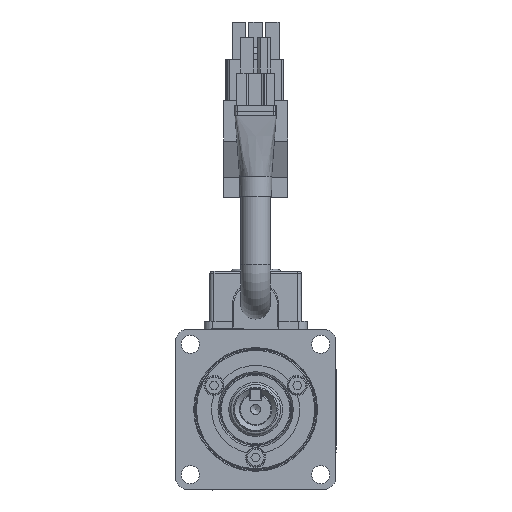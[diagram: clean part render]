
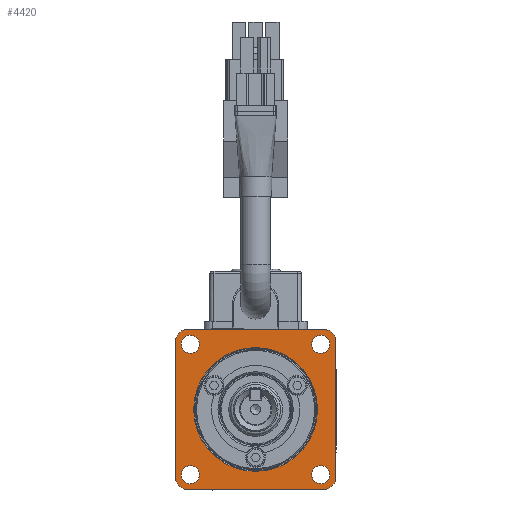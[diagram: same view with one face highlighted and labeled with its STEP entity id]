
A CAD part, left-side view. The second image highlights one B-rep face of the part: STEP entity #4420.
In plain terms, the highlighted planar face has unit normal (-1, 0, 0) as drawn and (0, -1, 0) by its records, which use the part's own axes.
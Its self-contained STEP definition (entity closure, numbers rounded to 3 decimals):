
#4420 = ADVANCED_FACE( '', ( #9267, #9268, #9269, #9270, #9271, #9272 ), #9273, .T. );
#9267 = FACE_BOUND( '', #17634, .T. );
#9268 = FACE_OUTER_BOUND( '', #17635, .T. );
#9269 = FACE_BOUND( '', #17636, .T. );
#9270 = FACE_BOUND( '', #17637, .T. );
#9271 = FACE_BOUND( '', #17638, .T. );
#9272 = FACE_BOUND( '', #17639, .T. );
#9273 = PLANE( '', #17640 );
#17634 = EDGE_LOOP( '', ( #30165 ) );
#17635 = EDGE_LOOP( '', ( #30166, #30167, #30168, #30169, #30170, #30171, #30172, #30173 ) );
#17636 = EDGE_LOOP( '', ( #30174 ) );
#17637 = EDGE_LOOP( '', ( #30175 ) );
#17638 = EDGE_LOOP( '', ( #30176 ) );
#17639 = EDGE_LOOP( '', ( #30177 ) );
#17640 = AXIS2_PLACEMENT_3D( '', #30178, #30179, #30180 );
#30165 = ORIENTED_EDGE( '', *, *, #41831, .T. );
#30166 = ORIENTED_EDGE( '', *, *, #41832, .F. );
#30167 = ORIENTED_EDGE( '', *, *, #41833, .T. );
#30168 = ORIENTED_EDGE( '', *, *, #38055, .F. );
#30169 = ORIENTED_EDGE( '', *, *, #38183, .T. );
#30170 = ORIENTED_EDGE( '', *, *, #40841, .F. );
#30171 = ORIENTED_EDGE( '', *, *, #41834, .F. );
#30172 = ORIENTED_EDGE( '', *, *, #41835, .F. );
#30173 = ORIENTED_EDGE( '', *, *, #41836, .T. );
#30174 = ORIENTED_EDGE( '', *, *, #41837, .F. );
#30175 = ORIENTED_EDGE( '', *, *, #39412, .F. );
#30176 = ORIENTED_EDGE( '', *, *, #41838, .F. );
#30177 = ORIENTED_EDGE( '', *, *, #41839, .F. );
#30178 = CARTESIAN_POINT( '', ( 0., 0.5, 15.5 ) );
#30179 = DIRECTION( '', ( 0., -1., 0. ) );
#30180 = DIRECTION( '', ( 0., 0., -1. ) );
#38055 = EDGE_CURVE( '', #44941, #44944, #44945, .F. );
#38183 = EDGE_CURVE( '', #44941, #45172, #45174, .T. );
#39412 = EDGE_CURVE( '', #47296, #47296, #47297, .F. );
#40841 = EDGE_CURVE( '', #49541, #45172, #49544, .F. );
#41831 = EDGE_CURVE( '', #50943, #50943, #50944, .F. );
#41832 = EDGE_CURVE( '', #50945, #50946, #50947, .F. );
#41833 = EDGE_CURVE( '', #50945, #44944, #50948, .T. );
#41834 = EDGE_CURVE( '', #50949, #49541, #50950, .T. );
#41835 = EDGE_CURVE( '', #50951, #50949, #50952, .F. );
#41836 = EDGE_CURVE( '', #50951, #50946, #50953, .T. );
#41837 = EDGE_CURVE( '', #50954, #50954, #50955, .F. );
#41838 = EDGE_CURVE( '', #50956, #50956, #50957, .F. );
#41839 = EDGE_CURVE( '', #50958, #50958, #50959, .F. );
#44941 = VERTEX_POINT( '', #53904 );
#44944 = VERTEX_POINT( '', #53908 );
#44945 = CIRCLE( '', #53909, 3. );
#45172 = VERTEX_POINT( '', #54273 );
#45174 = LINE( '', #54276, #54277 );
#47296 = VERTEX_POINT( '', #57746 );
#47297 = CIRCLE( '', #57747, 2.25 );
#49541 = VERTEX_POINT( '', #61886 );
#49544 = CIRCLE( '', #61890, 3. );
#50943 = VERTEX_POINT( '', #64545 );
#50944 = CIRCLE( '', #64546, 15.45 );
#50945 = VERTEX_POINT( '', #64547 );
#50946 = VERTEX_POINT( '', #64548 );
#50947 = CIRCLE( '', #64549, 3. );
#50948 = LINE( '', #64550, #64551 );
#50949 = VERTEX_POINT( '', #64552 );
#50950 = LINE( '', #64553, #64554 );
#50951 = VERTEX_POINT( '', #64555 );
#50952 = CIRCLE( '', #64556, 3. );
#50953 = LINE( '', #64557, #64558 );
#50954 = VERTEX_POINT( '', #64559 );
#50955 = CIRCLE( '', #64560, 2.25 );
#50956 = VERTEX_POINT( '', #64561 );
#50957 = CIRCLE( '', #64562, 2.25 );
#50958 = VERTEX_POINT( '', #64563 );
#50959 = CIRCLE( '', #64564, 2.25 );
#53904 = CARTESIAN_POINT( '', ( -20., 0.5, 17. ) );
#53908 = CARTESIAN_POINT( '', ( -17., 0.5, 20. ) );
#53909 = AXIS2_PLACEMENT_3D( '', #68716, #68717, #68718 );
#54273 = CARTESIAN_POINT( '', ( -20., 0.5, -17. ) );
#54276 = CARTESIAN_POINT( '', ( -20., 0.5, 20. ) );
#54277 = VECTOR( '', #68862, 1000. );
#57746 = CARTESIAN_POINT( '', ( 16.263, 0.5, -14.013 ) );
#57747 = AXIS2_PLACEMENT_3D( '', #70247, #70248, #70249 );
#61886 = CARTESIAN_POINT( '', ( -17., 0.5, -20. ) );
#61890 = AXIS2_PLACEMENT_3D( '', #71782, #71783, #71784 );
#64545 = CARTESIAN_POINT( '', ( 0., 0.5, -15.45 ) );
#64546 = AXIS2_PLACEMENT_3D( '', #72779, #72780, #72781 );
#64547 = CARTESIAN_POINT( '', ( 17., 0.5, 20. ) );
#64548 = CARTESIAN_POINT( '', ( 20., 0.5, 17. ) );
#64549 = AXIS2_PLACEMENT_3D( '', #72782, #72783, #72784 );
#64550 = CARTESIAN_POINT( '', ( 20., 0.5, 20. ) );
#64551 = VECTOR( '', #72785, 1000. );
#64552 = CARTESIAN_POINT( '', ( 17., 0.5, -20. ) );
#64553 = CARTESIAN_POINT( '', ( -20., 0.5, -20. ) );
#64554 = VECTOR( '', #72786, 1000. );
#64555 = CARTESIAN_POINT( '', ( 20., 0.5, -17. ) );
#64556 = AXIS2_PLACEMENT_3D( '', #72787, #72788, #72789 );
#64557 = CARTESIAN_POINT( '', ( 20., 0.5, -20. ) );
#64558 = VECTOR( '', #72790, 1000. );
#64559 = CARTESIAN_POINT( '', ( 16.263, 0.5, 18.513 ) );
#64560 = AXIS2_PLACEMENT_3D( '', #72791, #72792, #72793 );
#64561 = CARTESIAN_POINT( '', ( -16.263, 0.5, -14.013 ) );
#64562 = AXIS2_PLACEMENT_3D( '', #72794, #72795, #72796 );
#64563 = CARTESIAN_POINT( '', ( -16.263, 0.5, 18.513 ) );
#64564 = AXIS2_PLACEMENT_3D( '', #72797, #72798, #72799 );
#68716 = CARTESIAN_POINT( '', ( -17., 0.5, 17. ) );
#68717 = DIRECTION( '', ( 0., -1., 0. ) );
#68718 = DIRECTION( '', ( 0., 0., -1. ) );
#68862 = DIRECTION( '', ( 0., 0., -1. ) );
#70247 = CARTESIAN_POINT( '', ( 16.263, 0.5, -16.263 ) );
#70248 = DIRECTION( '', ( 0., 1., 0. ) );
#70249 = DIRECTION( '', ( 0., 0., 1. ) );
#71782 = CARTESIAN_POINT( '', ( -17., 0.5, -17. ) );
#71783 = DIRECTION( '', ( 0., -1., 0. ) );
#71784 = DIRECTION( '', ( 0., 0., -1. ) );
#72779 = CARTESIAN_POINT( '', ( 0., 0.5, 0. ) );
#72780 = DIRECTION( '', ( 0., -1., 0. ) );
#72781 = DIRECTION( '', ( 0., 0., -1. ) );
#72782 = CARTESIAN_POINT( '', ( 17., 0.5, 17. ) );
#72783 = DIRECTION( '', ( 0., -1., 0. ) );
#72784 = DIRECTION( '', ( 0., 0., -1. ) );
#72785 = DIRECTION( '', ( -1., 0., 0. ) );
#72786 = DIRECTION( '', ( -1., 0., 0. ) );
#72787 = CARTESIAN_POINT( '', ( 17., 0.5, -17. ) );
#72788 = DIRECTION( '', ( 0., -1., 0. ) );
#72789 = DIRECTION( '', ( 0., 0., -1. ) );
#72790 = DIRECTION( '', ( 0., 0., 1. ) );
#72791 = CARTESIAN_POINT( '', ( 16.263, 0.5, 16.263 ) );
#72792 = DIRECTION( '', ( 0., 1., 0. ) );
#72793 = DIRECTION( '', ( 0., 0., 1. ) );
#72794 = CARTESIAN_POINT( '', ( -16.263, 0.5, -16.263 ) );
#72795 = DIRECTION( '', ( 0., 1., 0. ) );
#72796 = DIRECTION( '', ( 0., 0., 1. ) );
#72797 = CARTESIAN_POINT( '', ( -16.263, 0.5, 16.263 ) );
#72798 = DIRECTION( '', ( 0., 1., 0. ) );
#72799 = DIRECTION( '', ( 0., 0., 1. ) );
